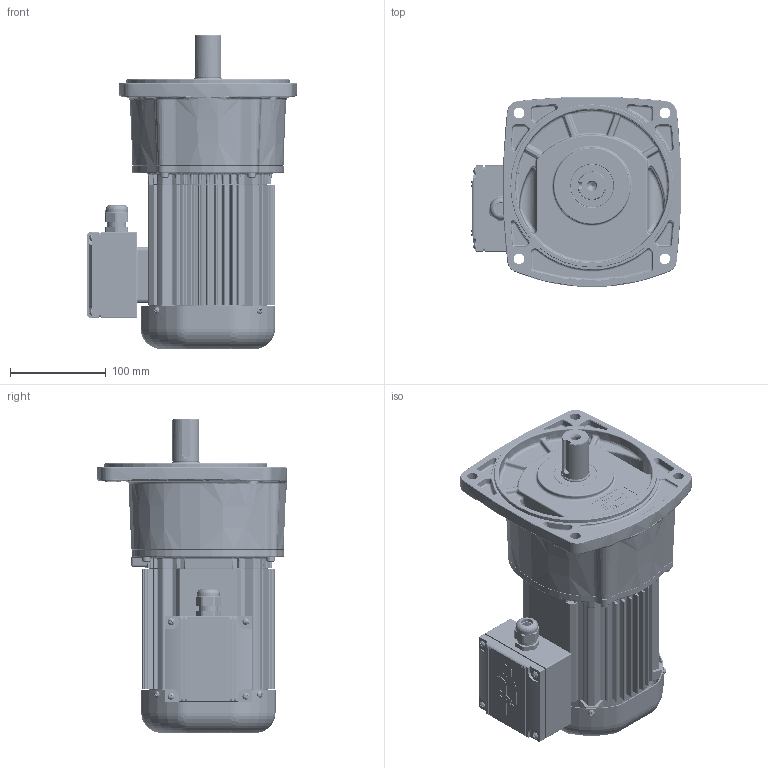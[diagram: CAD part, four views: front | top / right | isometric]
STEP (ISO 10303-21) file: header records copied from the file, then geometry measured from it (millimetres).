
FILE_DESCRIPTION(/* description */ (''),/* implementation_level */ '2;1');
FILE_NAME(/* name */ 'Z:\동력 3D 파일\PAF28_0.4kW_3D.stp',/* time_stamp */ '2021-11-08T15:19:48+09:00',/* author */ ('jaebok'),/* organization */ (''),/* preprocessor_version */ 'ST-DEVELOPER v18.1',/* originating_system */ 'Autodesk Inventor 2022',/* authorisation */ '');
FILE_SCHEMA (('AUTOMOTIVE_DESIGN { 1 0 10303 214 3 1 1 }'));
Products named in the file (1): 부품9
Bounding box: 218.74 x 198.24 x 327 mm (x, y, z)
Volume: 1873272.7 mm3; surface area: 601715.8 mm2
Topology: 2 solids, 34 shells, 4139 faces, 10427 edges, 6144 vertices
Faces by surface type: plane 1233, cylinder 1041, bspline 1034, torus 427, cone 257, sphere 147
Full cylindrical faces by diameter (mm): 2 x1, 3.242 x5, 3.25 x1, 3.5 x4, 3.6 x4, 4 x21, 4.2 x4, 4.917 x4, 5 x21, 5.386 x4, 5.5 x4, 6 x9, 7 x12, 8 x1, 8.376 x1, 8.5 x4, 10 x1, 12.5 x1, 15 x1, 18 x1, 19 x2, 20 x2, 21 x1, 23.6 x1, 25 x1, 27 x1, 27.6 x1, 28 x2, 30 x7, 31 x1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
Entity records: 165561 total; most frequent: CARTESIAN_POINT 69653, ORIENTED_EDGE 20216, DIRECTION 17873, EDGE_CURVE 10108, AXIS2_PLACEMENT_3D 7287, VERTEX_POINT 6144, EDGE_LOOP 4346, FACE_OUTER_BOUND 4139
